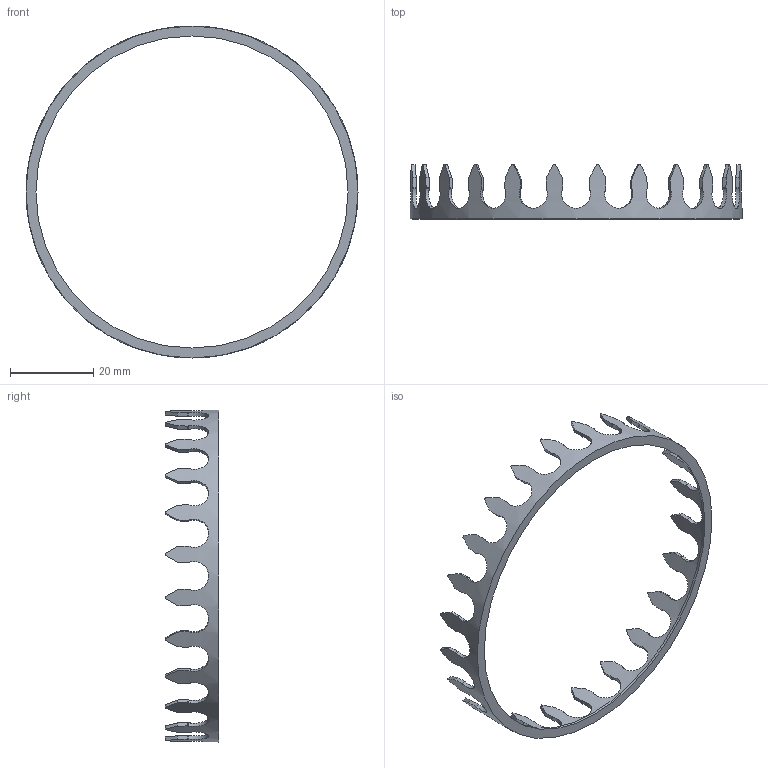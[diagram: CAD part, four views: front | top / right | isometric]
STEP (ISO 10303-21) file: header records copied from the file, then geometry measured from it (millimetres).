
FILE_DESCRIPTION(/* description */ (''),/* implementation_level */ '2;1');
FILE_NAME(/* name */ '\\192.168.3.8\kumagai\Develop\CAD\NakataOmni\DriveUnitR3\Ratainer_IG_SB_long.stp',/* time_stamp */ '2024-05-22T14:06:52+09:00',/* author */ ('kumagai'),/* organization */ (''),/* preprocessor_version */ 'ST-DEVELOPER v19',/* originating_system */ 'Autodesk Inventor 2023',/* authorisation */ '');
FILE_SCHEMA (('AUTOMOTIVE_DESIGN { 1 0 10303 214 3 1 1 }'));
Length unit declared in the file: millimetre
Products named in the file (1): Ratainer_IG_SB
Bounding box: 80 x 13 x 80 mm (x, y, z)
Volume: 1597.6 mm3; surface area: 4579.1 mm2
Topology: 1 solids, 1 shells, 197 faces, 585 edges, 390 vertices
Faces by surface type: plane 122, cylinder 75
Full cylindrical faces by diameter (mm): 75.2 x1, 78.2 x1, 80 x1
Entity records: 8044 total; most frequent: CARTESIAN_POINT 2759, ORIENTED_EDGE 1170, DIRECTION 1079, EDGE_CURVE 585, AXIS2_PLACEMENT_3D 442, VERTEX_POINT 390, EDGE_LOOP 199, FACE_OUTER_BOUND 197
